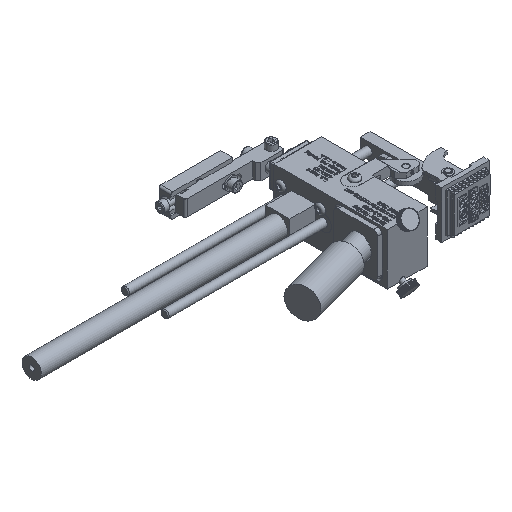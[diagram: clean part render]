
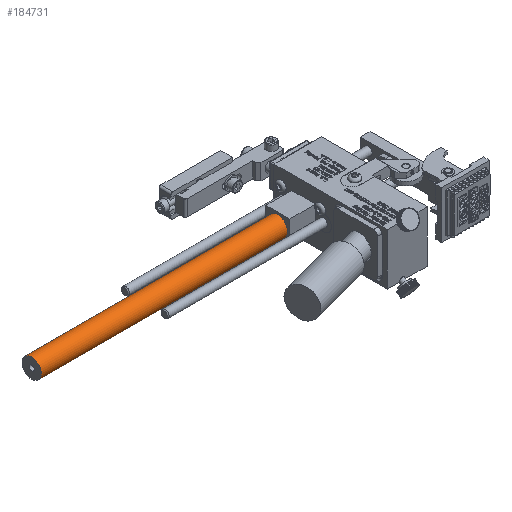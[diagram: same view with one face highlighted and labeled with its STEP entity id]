
A CAD part, isometric view. The second image highlights one B-rep face of the part: STEP entity #184731.
In plain terms, the highlighted cylindrical face has radius 7.747 mm (diameter 15.494 mm), a full revolution.
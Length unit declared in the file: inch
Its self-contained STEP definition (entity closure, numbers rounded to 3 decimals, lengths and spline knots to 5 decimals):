
#184680=CARTESIAN_POINT('',(-1.90763,0.0491,-0.5075));
#184681=VERTEX_POINT('',#184680);
#184682=CARTESIAN_POINT('',(-1.90763,0.0491,-0.8125));
#184683=DIRECTION('',(1.0,0.0,0.0));
#184684=DIRECTION('',(0.0,0.0,-1.0));
#184685=AXIS2_PLACEMENT_3D('',#184682,#184683,#184684);
#184686=CIRCLE('',#184685,0.305);
#184687=EDGE_CURVE('',#184681,#184681,#184686,.T.);
#184697=CARTESIAN_POINT('',(-9.66263,0.0491,-0.5075));
#184698=VERTEX_POINT('',#184697);
#184699=CARTESIAN_POINT('',(-9.66263,0.0491,-0.8125));
#184700=DIRECTION('',(1.0,0.0,0.0));
#184701=DIRECTION('',(0.0,0.0,-1.0));
#184702=AXIS2_PLACEMENT_3D('',#184699,#184700,#184701);
#184703=CIRCLE('',#184702,0.305);
#184704=EDGE_CURVE('',#184698,#184698,#184703,.T.);
#184720=CARTESIAN_POINT('',(-1.90763,0.0491,-0.8125));
#184721=DIRECTION('',(-1.0,0.,0.0));
#184722=DIRECTION('',(0.0,0.0,-1.0));
#184723=AXIS2_PLACEMENT_3D('',#184720,#184721,#184722);
#184724=CYLINDRICAL_SURFACE('',#184723,0.305);
#184725=ORIENTED_EDGE('',*,*,#184704,.T.);
#184726=EDGE_LOOP('',(#184725));
#184727=FACE_OUTER_BOUND('',#184726,.T.);
#184728=ORIENTED_EDGE('',*,*,#184687,.F.);
#184729=EDGE_LOOP('',(#184728));
#184730=FACE_BOUND('',#184729,.T.);
#184731=ADVANCED_FACE('',(#184727,#184730),#184724,.T.);
